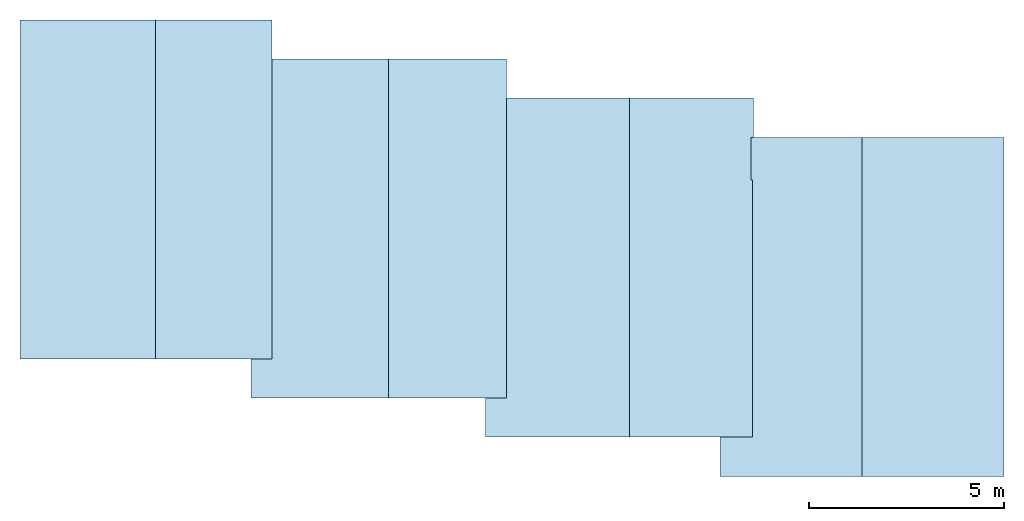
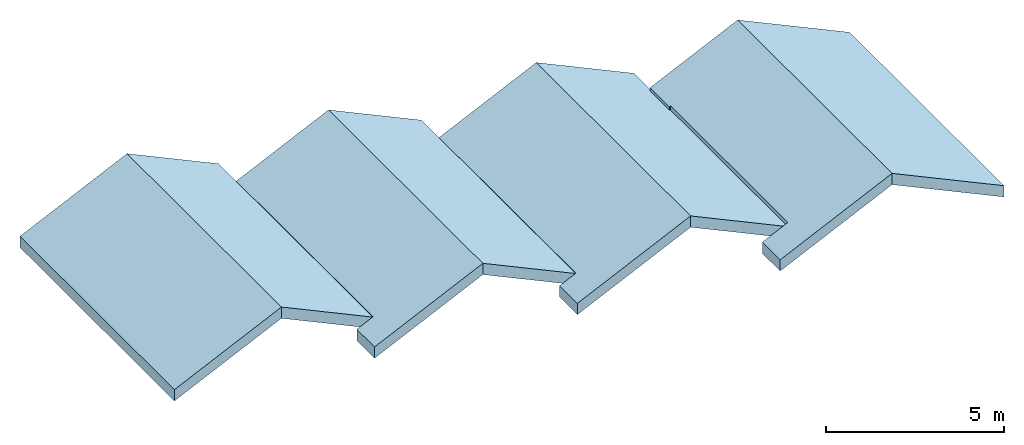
# One storey: 8 slabs, 4 elements without a shape of their own.
"""IFC2X3 building model written with IfcOpenShell, lengths in millimetres."""

from ifc_helpers import new_model, entity, si_unit, converted_unit, direction, frame, frame_2d, origin, place, context, subcontext, project, spatial, polyline, rectangle, outline, extrude, material, layer, layer_set, type_object, element, aggregate, save


model = new_model("IFC2X3")

# Units and contexts
model_context = context("Model", 3, precision=0.01, world=origin(), true_north=direction((0.0, 1.0)))
body_context = subcontext(model_context, "Body", "Model", "MODEL_VIEW")
ifc_project = project(units=[si_unit("LENGTHUNIT", "METRE", prefix="MILLI"), si_unit("AREAUNIT", "SQUARE_METRE"), si_unit("VOLUMEUNIT", "CUBIC_METRE"), converted_unit("PLANEANGLEUNIT", "DEGREE", entity("IfcPlaneAngleMeasure", 0.017453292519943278), si_unit("PLANEANGLEUNIT", "RADIAN"), dimensions=[0, 0, 0, 0, 0, 0, 0])], contexts=[model_context])

# Site, building, storey
site_placement = place(None, origin())
site = spatial("IfcSite", under=ifc_project, at=site_placement, Name="Default", CompositionType="ELEMENT")
building_placement = place(site_placement, origin())
building = spatial("IfcBuilding", under=site, at=building_placement, CompositionType="ELEMENT")
storey_placement = place(building_placement, frame((0.0, 0.0, 5081.0)))
storey = spatial("IfcBuildingStorey", under=building, at=storey_placement, Name="Gesims", CompositionType="ELEMENT", Elevation=5081.0)

# Roof, slabs
ifc_material_1 = material(Name="Tak - Takstein - Sort")
ifc_layer_1 = layer(ifc_material_1, 30.0)
ifc_material_2 = material(Name="Default Roof")
ifc_layer_2 = layer(ifc_material_2, 21.0)
ifc_layer_3 = layer(ifc_material_2, 36.0)
ifc_material_3 = material(Name="Tak - Tre - Sperre - Isolert")
ifc_layer_4 = layer(ifc_material_3, 250.00000000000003)
ifc_material_4 = material(Name="Tak - Gips - Hvit")
ifc_layer_5 = layer(ifc_material_4, 13.000000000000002)
ifc_layer_set = layer_set([ifc_layer_1, ifc_layer_2, ifc_layer_3, ifc_layer_4, ifc_layer_5], Name="Basic Roof:Taksperre, Steintekking Sort")
roof_1_placement = place(storey_placement, frame((9591.009586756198, 10908.180957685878, -233.1538290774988)))
roof_1 = element("IfcRoof", 1, at=roof_1_placement, inside=storey, material=ifc_layer_set, Name="Basic Roof:Taksperre, Steintekking Sort", ShapeType="NOTDEFINED")
slab_type = type_object("IfcSlabType", Name="Basic Roof:Taksperre, Steintekking Sort", PredefinedType="ROOF")
slab_1_placement = place(roof_1_placement, origin())
slab_1 = element("IfcSlab", 2, at=slab_1_placement, type_object=slab_type, material=ifc_layer_set, Name="Basic Roof:Taksperre, Steintekking Sort", PredefinedType="ROOF", context=body_context, shape_type="SweptSolid", body=[
    extrude(rectangle(XDim=8674.000000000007, YDim=3829.2730677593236, at=frame_2d((-2.3874235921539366e-12, -2.2737367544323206e-12), x_axis=(0.0, 1.0))), frame((1735.2500000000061, 4337.0, 809.1603638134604), z_axis=(-0.42261826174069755, 0.0, 0.9063077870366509), x_axis=(0.9063077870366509, 0.0, 0.42261826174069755)), (0.42261826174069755, 0.0, 0.9063077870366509), 386.1822716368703),
])
slab_2_placement = place(roof_1_placement, origin())
slab_2 = element("IfcSlab", 3, at=slab_2_placement, type_object=slab_type, material=ifc_layer_set, Name="Basic Roof:Taksperre, Steintekking Sort", PredefinedType="ROOF", context=body_context, shape_type="SweptSolid", body=[
    extrude(rectangle(XDim=3277.5841082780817, YDim=8674.000000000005, at=frame_2d((6.139089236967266e-12, 0.0), x_axis=(1.0, 0.0))), frame((4955.750000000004, 4337.0, 925.7372783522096), z_axis=(0.42261826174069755, 0.0, 0.9063077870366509), x_axis=(0.9063077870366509, 0.0, -0.42261826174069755)), (-0.42261826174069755, 0.0, 0.9063077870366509), 386.1822716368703),
])
aggregate(roof_1, [slab_1, slab_2])

roof_2_placement = place(storey_placement, frame((15505.009586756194, 9908.180957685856, -233.1538290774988)))
roof_2 = element("IfcRoof", 4, at=roof_2_placement, inside=storey, material=ifc_layer_set, Name="Basic Roof:Taksperre, Steintekking Sort", ShapeType="NOTDEFINED")
slab_3_placement = place(roof_2_placement, origin())
slab_3 = element("IfcSlab", 5, at=slab_3_placement, type_object=slab_type, material=ifc_layer_set, Name="Basic Roof:Taksperre, Steintekking Sort", PredefinedType="ROOF", context=body_context, shape_type="SweptSolid", body=[
    extrude(outline(polyline([(-1423.0816709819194, 3337.0), (-1356.8789958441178, 3337.0), (-1356.878995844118, -3337.0), (-1938.359159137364, -3337.0), (-1938.359159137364, -4337.0), (1938.3591591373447, -4337.0), (1938.3591591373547, 4337.0), (-1423.0816709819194, 4337.0), (-1423.0816709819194, 3337.0)])), frame((1756.75000000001, 4337.0, 819.1859784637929), z_axis=(-0.42261826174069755, 0.0, 0.9063077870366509), x_axis=(0.9063077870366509, 0.0, 0.42261826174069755)), (0.42261826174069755, 0.0, 0.9063077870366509), 386.18227163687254),
])
slab_4_placement = place(roof_2_placement, origin())
slab_4 = element("IfcSlab", 6, at=slab_4_placement, type_object=slab_type, material=ifc_layer_set, Name="Basic Roof:Taksperre, Steintekking Sort", PredefinedType="ROOF", context=body_context, shape_type="SweptSolid", body=[
    extrude(rectangle(XDim=3325.029358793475, YDim=8674.000000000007, at=frame_2d((4.547473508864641e-12, -9.094947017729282e-13), x_axis=(1.0, 0.0))), frame((5020.250000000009, 4337.0, 935.7628930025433), z_axis=(0.42261826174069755, 0.0, 0.9063077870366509), x_axis=(0.9063077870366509, 0.0, -0.42261826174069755)), (-0.42261826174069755, 0.0, 0.9063077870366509), 386.18227163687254),
])
aggregate(roof_2, [slab_3, slab_4])

roof_3_placement = place(storey_placement, frame((21505.00958675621, 8908.180957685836, -233.1538290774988)))
roof_3 = element("IfcRoof", 7, at=roof_3_placement, inside=storey, material=ifc_layer_set, Name="Basic Roof:Taksperre, Steintekking Sort", ShapeType="NOTDEFINED")
slab_5_placement = place(roof_3_placement, origin())
slab_5 = element("IfcSlab", 8, at=slab_5_placement, type_object=slab_type, material=ifc_layer_set, Name="Basic Roof:Taksperre, Steintekking Sort", PredefinedType="ROOF", context=body_context, shape_type="SweptSolid", body=[
    extrude(outline(polyline([(-1483.491612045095, 3250.0), (-1444.873384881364, 3250.0), (-1444.873384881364, -3337.0), (-2026.353548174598, -3337.0), (-2026.353548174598, -4337.0), (2026.353548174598, -4337.0), (2026.353548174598, 4337.0), (-1483.491612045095, 4337.0), (-1483.491612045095, 3250.0)])), frame((1836.4999999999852, 4337.0, 856.3740142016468), z_axis=(-0.42261826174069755, 0.0, 0.9063077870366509), x_axis=(0.9063077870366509, 0.0, 0.42261826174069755)), (0.42261826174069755, 0.0, 0.9063077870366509), 386.1822716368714),
])
slab_6_placement = place(roof_3_placement, origin())
slab_6 = element("IfcSlab", 9, at=slab_6_placement, type_object=slab_type, material=ifc_layer_set, Name="Basic Roof:Taksperre, Steintekking Sort", PredefinedType="ROOF", context=body_context, shape_type="SweptSolid", body=[
    extrude(rectangle(XDim=3501.018136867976, YDim=8674.0, at=frame_2d((2.5011104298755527e-12, 1.3642420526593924e-12), x_axis=(1.0, 0.0))), frame((5259.499999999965, 4337.0, 972.9509287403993), z_axis=(0.42261826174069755, 0.0, 0.9063077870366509), x_axis=(0.9063077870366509, 0.0, -0.42261826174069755)), (-0.42261826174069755, 0.0, 0.9063077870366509), 386.1822716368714),
])
aggregate(roof_3, [slab_5, slab_6])

roof_4_placement = place(storey_placement, frame((27505.009586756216, 7908.180957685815, -233.1538290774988)))
roof_4 = element("IfcRoof", 10, at=roof_4_placement, inside=storey, material=ifc_layer_set, Name="Basic Roof:Taksperre, Steintekking Sort", ShapeType="NOTDEFINED")
slab_7_placement = place(roof_4_placement, origin())
slab_7 = element("IfcSlab", 11, at=slab_7_placement, type_object=slab_type, material=ifc_layer_set, Name="Basic Roof:Taksperre, Steintekking Sort", PredefinedType="ROOF", context=body_context, shape_type="SweptSolid", body=[
    extrude(rectangle(XDim=4005.26184583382, YDim=8674.0, at=frame_2d((0.0, 4.092726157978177e-12), x_axis=(1.0, 0.0))), frame((5445.0, 4337.0, 846.3483995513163), z_axis=(0.42261826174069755, 0.0, 0.9063077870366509), x_axis=(0.9063077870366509, 0.0, -0.42261826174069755)), (-0.42261826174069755, 0.0, 0.9063077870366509), 386.18227163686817),
])
slab_8_placement = place(roof_4_placement, origin())
slab_8 = element("IfcSlab", 12, at=slab_8_placement, type_object=slab_type, material=ifc_layer_set, Name="Basic Roof:Taksperre, Steintekking Sort", PredefinedType="ROOF", context=body_context, shape_type="SweptSolid", body=[
    extrude(outline(polyline([(-1134.2725006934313, 3250.0), (-1090.1373839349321, 3250.0), (-1090.1373839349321, -3337.0), (-2002.6309229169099, -3337.0), (-2002.6309229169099, -4337.0), (2002.6309229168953, -4337.0), (2002.630922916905, 4337.0), (-1134.2725006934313, 4337.0), (-1134.2725006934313, 3250.0)])), frame((1815.0, 4337.0, 846.3483995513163), z_axis=(-0.42261826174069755, 0.0, 0.9063077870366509), x_axis=(0.9063077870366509, 0.0, 0.42261826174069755)), (0.42261826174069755, 0.0, 0.9063077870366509), 386.18227163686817),
])
aggregate(roof_4, [slab_7, slab_8])

save(model, "model.ifc")
